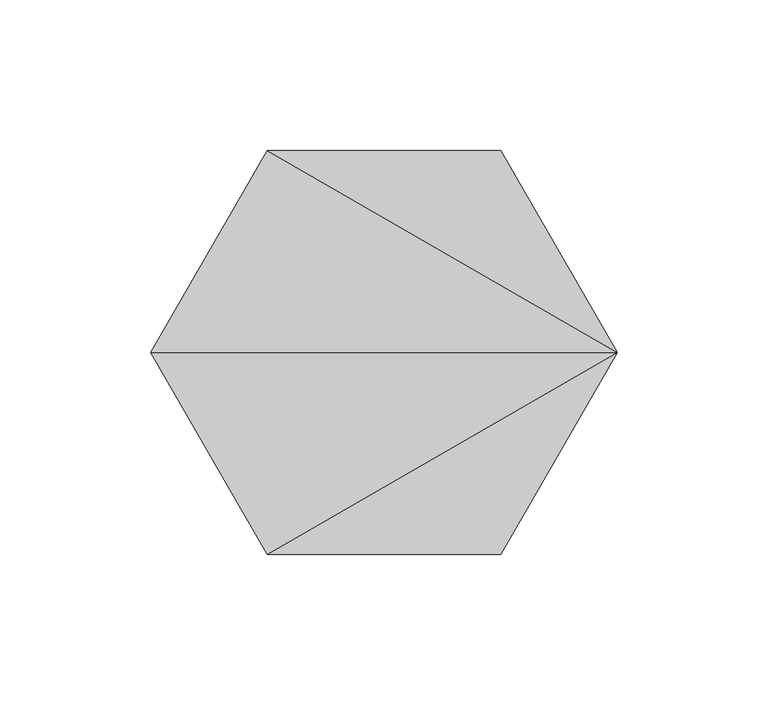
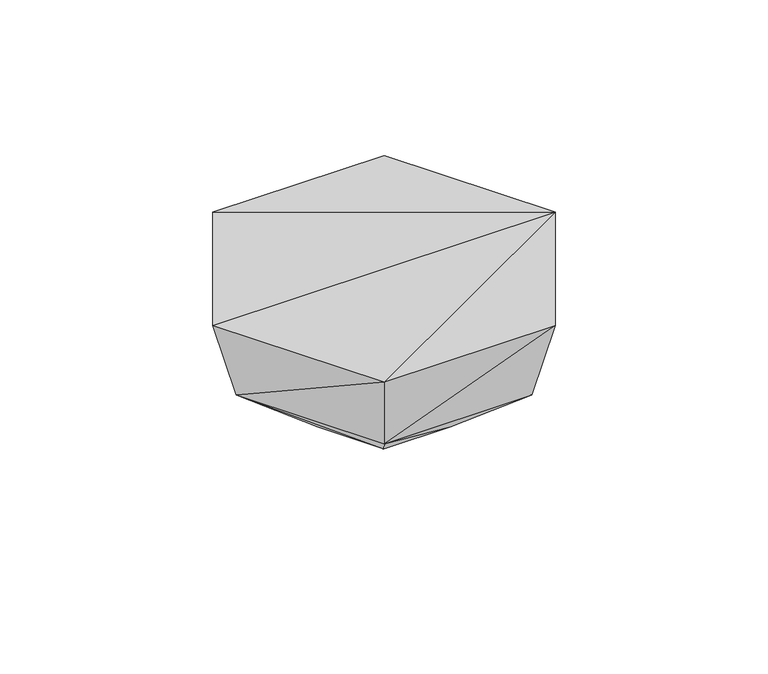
"""IFC4 building model written with IfcOpenShell, lengths in millimetres: geographic element geometry, Enscape AssetDefinition - Cereal Bowl 02 : Enscape AssetDefinition - Cereal Bowl 02."""

import ifcopenshell
import ifcopenshell.guid

model = None  # the IFC model being written
_history = None  # IfcOwnerHistory: only IFC2X3 demands one
_inside = {}  # id of a spatial element -> (the spatial element, [elements in it])
_under = {}  # id of a project, library or spatial element -> (it, [spatial elements below it])
_declared = {}  # id of a project -> (the project, [libraries it declares])
_typed = {}  # id of a type object -> (the type object, [elements of that type])
_made_of = {}  # id of a material, layer set ... -> (it, [elements and type objects made of it])


def new_model(schema):
    """Start an empty IFC model of exactly this schema.

    Asked for "IFC4X3", IfcOpenShell would pick the latest addendum, in which some entities
    have other attributes; the version numbers below select the first issue.
    IFC2X3 requires an IfcOwnerHistory on every rooted entity: one is made here for all.
    """
    global model, _history
    if schema == "IFC4X3":
        model = ifcopenshell.file(schema_version=(4, 3, 0, 0))
    else:
        model = ifcopenshell.file(schema=schema)
    _inside.clear()
    _under.clear()
    _declared.clear()
    _typed.clear()
    _made_of.clear()
    _history = None
    if model.schema == "IFC2X3":
        org = make("IfcOrganization", Name="unknown")
        user = make(
            "IfcPersonAndOrganization",
            ThePerson=make("IfcPerson", FamilyName="unknown"),
            TheOrganization=org,
        )
        app = make(
            "IfcApplication",
            ApplicationDeveloper=org,
            Version="unknown",
            ApplicationFullName="unknown",
            ApplicationIdentifier="unknown",
        )
        _history = make(
            "IfcOwnerHistory",
            OwningUser=user,
            OwningApplication=app,
            ChangeAction="ADDED",
            CreationDate=0,
        )
    return model


def make(cls, **values):
    """One entity of the class cls with the attributes given. An attribute that is None is left unset."""
    return model.create_entity(
        cls, **{name: value for name, value in values.items() if value is not None}
    )


def rooted(cls, **values):
    """An entity with a GlobalId (a new one), such as an element, a storey or a relation."""
    return make(cls, GlobalId=ifcopenshell.guid.new(), OwnerHistory=_history, **values)


def si_unit(unit_type, name, prefix=None):
    """IfcSIUnit, for example si_unit("LENGTHUNIT", "METRE", prefix="MILLI")."""
    return make("IfcSIUnit", UnitType=unit_type, Prefix=prefix, Name=name)


def assignment(units):
    """IfcUnitAssignment: the units of a project."""
    return None if units is None else make("IfcUnitAssignment", Units=units)


def point(xyz):
    """IfcCartesianPoint."""
    return None if xyz is None else make("IfcCartesianPoint", Coordinates=xyz)


def direction(xyz):
    """IfcDirection."""
    return None if xyz is None else make("IfcDirection", DirectionRatios=xyz)


def frame(location, z_axis=None, x_axis=None):
    """IfcAxis2Placement3D, a coordinate frame: its origin and axes. An axis left out is left unset."""
    return make(
        "IfcAxis2Placement3D",
        Location=point(location),
        Axis=direction(z_axis),
        RefDirection=direction(x_axis),
    )


def origin():
    """The frame at (0, 0, 0) with its axes left unset."""
    return frame((0.0, 0.0, 0.0))


def place(relative_to, where):
    """IfcLocalPlacement: puts the frame where relative to a parent placement (None: the world)."""
    return make(
        "IfcLocalPlacement", PlacementRelTo=relative_to, RelativePlacement=where
    )


def context(
    kind, dimensions, precision=None, world=None, true_north=None, identifier=None
):
    """IfcGeometricRepresentationContext, for example the 3D "Model" context."""
    return make(
        "IfcGeometricRepresentationContext",
        ContextIdentifier=identifier,
        ContextType=kind,
        CoordinateSpaceDimension=dimensions,
        Precision=precision,
        WorldCoordinateSystem=world,
        TrueNorth=true_north,
    )


def project(units=None, contexts=None):
    """IfcProject with its units and contexts."""
    return rooted(
        "IfcProject",
        Name="project",
        RepresentationContexts=contexts,
        UnitsInContext=assignment(units),
    )


def spatial(cls, under=None, at=None, **own):
    """A site, building, storey or space (cls), placed at a placement, below another one or the project."""
    s = rooted(cls, ObjectPlacement=at, **own)
    if under is not None:
        _under.setdefault(under.id(), (under, []))[1].append(s)
    return s


def faces_of(points, faces, orient=None, outer=None):
    """IfcFace entities. A face is a list of loops; a loop is a list of indices into points, from 0.

    orient and outer hold one flag for each loop. By default every Orientation is true, the
    first loop of a face is its IfcFaceOuterBound and the others are IfcFaceBound.
    """
    made = []
    for i, loops in enumerate(faces):
        bounds = []
        for j, loop in enumerate(loops):
            is_outer = j == 0 if outer is None else outer[i][j]
            bounds.append(
                make(
                    "IfcFaceOuterBound" if is_outer else "IfcFaceBound",
                    Bound=make("IfcPolyLoop", Polygon=[points[k] for k in loop]),
                    Orientation=True if orient is None else orient[i][j],
                )
            )
        made.append(make("IfcFace", Bounds=bounds))
    return made


def faceted_brep(points, faces, orient=None, outer=None, voids=None):
    """IfcFacetedBrep: a solid bounded by flat faces; with voids (closed shells), ...WithVoids."""
    shared = [point(p) for p in points]
    hull = make("IfcClosedShell", CfsFaces=faces_of(shared, faces, orient, outer))
    if voids is None:
        return make("IfcFacetedBrep", Outer=hull)
    return make(
        "IfcFacetedBrepWithVoids",
        Outer=hull,
        Voids=[
            make(cls, CfsFaces=faces_of(shared, fs, o, b)) for cls, fs, o, b in voids
        ],
    )


def shape(context_of_items, identifier, shape_type, items):
    """IfcShapeRepresentation: the items that make up one representation, for example the "Body"."""
    return make(
        "IfcShapeRepresentation",
        ContextOfItems=context_of_items,
        RepresentationIdentifier=identifier,
        RepresentationType=shape_type,
        Items=items,
    )


def source(mapping_origin, context_of_items, identifier, shape_type, items):
    """IfcRepresentationMap: a shape defined once, which mapped items show again and again."""
    return make(
        "IfcRepresentationMap",
        MappingOrigin=mapping_origin,
        MappedRepresentation=shape(context_of_items, identifier, shape_type, items),
    )


def transform(
    local_origin,
    x_axis=None,
    y_axis=None,
    z_axis=None,
    scale=None,
    scale2=None,
    scale3=None,
    uniform=True,
):
    """IfcCartesianTransformationOperator3D, or its non-uniform kind. x_axis, y_axis, z_axis: its Axis1, 2, 3."""
    if uniform:
        return make(
            "IfcCartesianTransformationOperator3D",
            Axis1=direction(x_axis),
            Axis2=direction(y_axis),
            LocalOrigin=point(local_origin),
            Scale=scale,
            Axis3=direction(z_axis),
        )
    return make(
        "IfcCartesianTransformationOperator3DnonUniform",
        Axis1=direction(x_axis),
        Axis2=direction(y_axis),
        LocalOrigin=point(local_origin),
        Scale=scale,
        Axis3=direction(z_axis),
        Scale2=scale2,
        Scale3=scale3,
    )


def mapped(mapping_source, mapping_target):
    """IfcMappedItem: shows the shape of a source again, moved by a transform."""
    return make(
        "IfcMappedItem", MappingSource=mapping_source, MappingTarget=mapping_target
    )


def made_of(thing, what):
    """Note that an element or type object is made of a material, layer set ...; save() writes the relation."""
    if what is not None:
        _made_of.setdefault(what.id(), (what, []))[1].append(thing)
    return thing


def element(
    cls,
    number,
    at=None,
    inside=None,
    cuts=None,
    type_object=None,
    material=None,
    context=None,
    identifier="Body",
    shape_type=None,
    held_by="IfcProductDefinitionShape",
    body=None,
    shapes=None,
    **own,
):
    """One element of the class cls, such as IfcWall. Its Tag is "e" and its number.

    at: its placement. inside: the storey or other place that contains it. cuts: it is an
    opening in that element (IfcRelVoidsElement). A single representation is given by context,
    identifier, shape_type and body (its items); several are given by shapes. held_by: the class
    of the entity that holds the representations. save() writes the other relations.
    """
    e = rooted(cls, Tag="e%d" % number, ObjectPlacement=at, **own)
    if body is not None:
        shapes = [shape(context, identifier, shape_type, body)]
    if shapes is not None:
        e.Representation = make(held_by, Representations=shapes)
    if inside is not None:
        _inside.setdefault(inside.id(), (inside, []))[1].append(e)
    if cuts is not None:
        rooted(
            "IfcRelVoidsElement", RelatingBuildingElement=cuts, RelatedOpeningElement=e
        )
    if type_object is not None:
        _typed.setdefault(type_object.id(), (type_object, []))[1].append(e)
    return made_of(e, material)


def aggregate(whole, parts):
    """IfcRelAggregates: a whole, such as a stair, and the parts it consists of."""
    return rooted("IfcRelAggregates", RelatingObject=whole, RelatedObjects=parts)


def save(model, path):
    """Write the relations noted so far, then the file.

    IfcRelAggregates (storeys below a building ...), IfcRelContainedInSpatialStructure (elements
    in a storey), IfcRelDefinesByType, IfcRelAssociatesMaterial and IfcRelDeclares: one each for
    every whole, place, type object, material and project.
    """
    for whole, parts in _under.values():
        aggregate(whole, parts)
    for where, things in _inside.values():
        rooted(
            "IfcRelContainedInSpatialStructure",
            RelatedElements=things,
            RelatingStructure=where,
        )
    for kind, things in _typed.values():
        rooted("IfcRelDefinesByType", RelatedObjects=things, RelatingType=kind)
    for what, things in _made_of.values():
        rooted("IfcRelAssociatesMaterial", RelatedObjects=things, RelatingMaterial=what)
    for by, libraries in _declared.values():
        rooted("IfcRelDeclares", RelatingContext=by, RelatedDefinitions=libraries)
    model.write(path)


def geographic_element_40146519(model_context):
    return source(origin(), model_context, "Body", "Brep", [
        faceted_brep([(66.9674352, 0.0573731, 28.1193331), (15.0276162, 26.0142721, -0.1419541), (33.5041285, 58.0166392, 28.1193331), (30.0138295, 0.0573731, -0.1419541), (-14.9448095, 26.0142721, -0.1419541), (-29.9304295, 0.0573731, -0.1419541), (33.5041285, -57.9018965, 28.1193331), (38.7919135, 67.1750456, 65.0853589), (77.5418356, 0.0573731, 65.0853589), (15.0276162, -25.8989334, -0.1419541), (-33.421319, -57.9018965, 28.1193331), (38.7919135, -67.0597106, 65.0853589), (-38.7085192, 67.1750456, 65.0853589), (-77.4590299, 0.0573731, 65.0853589), (-38.7085192, -67.0597106, 65.0853589), (-33.421319, 58.0166392, 28.1193331), (-66.8840408, 0.0573731, 28.1193331), (-14.9448095, -25.8989334, -0.1419541)], [[[0, 1, 2]], [[1, 0, 3]], [[4, 2, 1]], [[5, 1, 3]], [[5, 4, 1]], [[6, 3, 0]], [[0, 7, 8]], [[7, 0, 2]], [[8, 6, 0]], [[3, 6, 9]], [[5, 3, 9]], [[10, 9, 6]], [[11, 10, 6]], [[6, 8, 11]], [[8, 7, 12]], [[8, 12, 13]], [[8, 13, 14]], [[8, 14, 11]], [[2, 12, 7]], [[12, 2, 15]], [[15, 13, 12]], [[13, 15, 16]], [[16, 14, 13]], [[14, 16, 10]], [[10, 11, 14]], [[16, 17, 10]], [[9, 10, 17]], [[5, 9, 17]], [[17, 16, 5]], [[15, 5, 16]], [[2, 4, 15]], [[5, 15, 4]]]),
    ])


if __name__ == "__main__":
    model = new_model("IFC4")
    model_context = context("Model", 3, world=origin())
    ifc_project = project(units=[si_unit("LENGTHUNIT", "METRE", prefix="MILLI")], contexts=[model_context])
    site = spatial("IfcSite", under=ifc_project)
    building = spatial("IfcBuilding", under=site)
    placement = place(None, origin())
    geographic_element_shape = geographic_element_40146519(model_context)
    element("IfcGeographicElement", 1, ObjectType="Enscape AssetDefinition - Cereal Bowl 02 : Enscape AssetDefinition - Cereal Bowl 02", at=placement, inside=building, context=model_context, shape_type="MappedRepresentation", body=[
        mapped(geographic_element_shape, transform((0.0, 0.0, 0.0), x_axis=(1.0, 0.0, 0.0), y_axis=(0.0, 1.0, 0.0), z_axis=(0.0, 0.0, 1.0))),
    ])
    save(model, "model.ifc")
